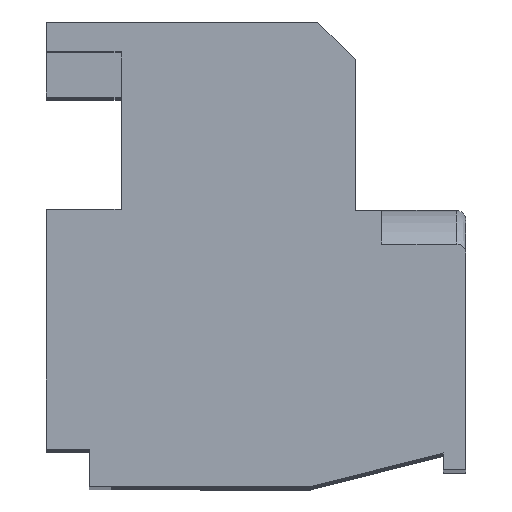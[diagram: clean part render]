
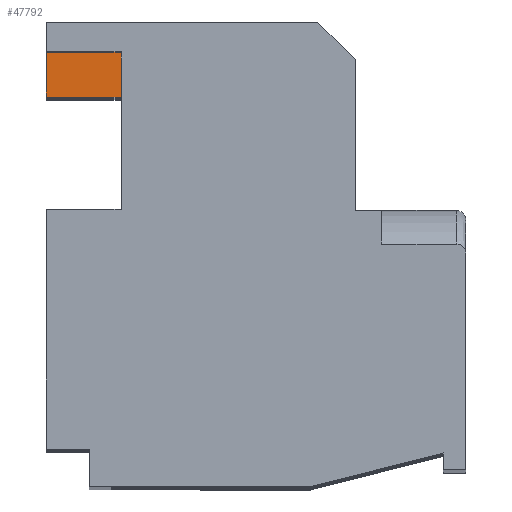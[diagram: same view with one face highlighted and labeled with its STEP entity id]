
A CAD part, top view. The second image highlights one B-rep face of the part: STEP entity #47792.
In plain terms, the highlighted planar face has unit normal (0, 0, 1).
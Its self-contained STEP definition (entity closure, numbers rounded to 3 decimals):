
#7469 = VERTEX_POINT ( 'NONE', #35120 ) ;
#7535 = VERTEX_POINT ( 'NONE', #35258 ) ;
#7541 = EDGE_CURVE ( 'NONE', #7469, #7535, #35244, .T. ) ;
#34681 = FACE_OUTER_BOUND ( 'NONE', #47777, .T. ) ;
#34791 = DIRECTION ( 'NONE',  ( 0., 1., 0. ) ) ;
#34793 = DIRECTION ( 'NONE',  ( 0., 0., 1. ) ) ;
#34795 = CARTESIAN_POINT ( 'NONE',  ( -5.354, 5.113, -2. ) ) ;
#34796 = AXIS2_PLACEMENT_3D ( 'NONE', #34795, #34793, #34791 ) ;
#34799 = PLANE ( 'NONE',  #34796 ) ;
#35120 = CARTESIAN_POINT ( 'NONE',  ( -7.354, 5.113, -2. ) ) ;
#35241 = DIRECTION ( 'NONE',  ( 1., 0., 0. ) ) ;
#35242 = VECTOR ( 'NONE', #35241, 1000. ) ;
#35243 = CARTESIAN_POINT ( 'NONE',  ( -6.354, 5.113, -2. ) ) ;
#35244 = LINE ( 'NONE', #35243, #35242 ) ;
#35258 = CARTESIAN_POINT ( 'NONE',  ( -5.354, 5.113, -2. ) ) ;
#41009 = CARTESIAN_POINT ( 'NONE',  ( -5.354, 6.313, -2. ) ) ;
#41157 = DIRECTION ( 'NONE',  ( -1., 0., 0. ) ) ;
#41158 = VECTOR ( 'NONE', #41157, 1000. ) ;
#41159 = CARTESIAN_POINT ( 'NONE',  ( -6.354, 6.313, -2. ) ) ;
#41160 = LINE ( 'NONE', #41159, #41158 ) ;
#41213 = DIRECTION ( 'NONE',  ( 0., 1., 0. ) ) ;
#41214 = VECTOR ( 'NONE', #41213, 1000. ) ;
#41215 = CARTESIAN_POINT ( 'NONE',  ( -5.354, 5.713, -2. ) ) ;
#41216 = LINE ( 'NONE', #41215, #41214 ) ;
#41226 = CARTESIAN_POINT ( 'NONE',  ( -7.354, 6.313, -2. ) ) ;
#41302 = DIRECTION ( 'NONE',  ( 0., -1., 0. ) ) ;
#41303 = VECTOR ( 'NONE', #41302, 1000. ) ;
#41304 = CARTESIAN_POINT ( 'NONE',  ( -7.354, 6.113, -2. ) ) ;
#41305 = LINE ( 'NONE', #41304, #41303 ) ;
#47777 = EDGE_LOOP ( 'NONE', ( #58433, #58389, #58303, #58354 ) ) ;
#47792 = ADVANCED_FACE ( 'NONE', ( #34681 ), #34799, .T. ) ;
#58292 = VERTEX_POINT ( 'NONE', #41009 ) ;
#58303 = ORIENTED_EDGE ( 'NONE', *, *, #58400, .T. ) ;
#58347 = EDGE_CURVE ( 'NONE', #58292, #58387, #41160, .T. ) ;
#58354 = ORIENTED_EDGE ( 'NONE', *, *, #58347, .T. ) ;
#58387 = VERTEX_POINT ( 'NONE', #41226 ) ;
#58389 = ORIENTED_EDGE ( 'NONE', *, *, #7541, .T. ) ;
#58400 = EDGE_CURVE ( 'NONE', #7535, #58292, #41216, .T. ) ;
#58433 = ORIENTED_EDGE ( 'NONE', *, *, #58434, .T. ) ;
#58434 = EDGE_CURVE ( 'NONE', #58387, #7469, #41305, .T. ) ;
